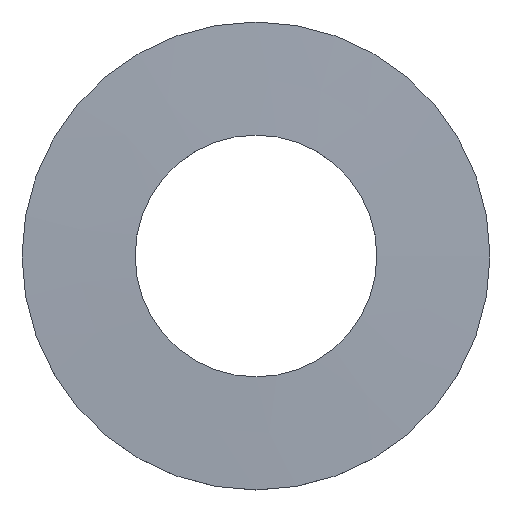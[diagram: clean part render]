
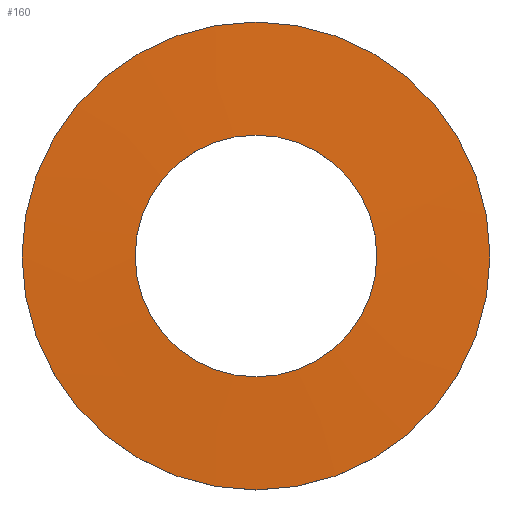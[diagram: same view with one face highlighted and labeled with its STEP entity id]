
A CAD part, top view. The second image highlights one B-rep face of the part: STEP entity #160.
In plain terms, the highlighted conical face has half-angle 88.272 degrees and reference radius 6 mm.
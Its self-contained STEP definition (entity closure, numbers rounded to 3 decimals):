
#66 = CYLINDRICAL_SURFACE('',#67,6.);
#67 = AXIS2_PLACEMENT_3D('',#68,#69,#70);
#68 = CARTESIAN_POINT('',(0.,0.,-8.95));
#69 = DIRECTION('',(0.,0.,1.));
#70 = DIRECTION('',(1.,0.,-0.));
#94 = CYLINDRICAL_SURFACE('',#95,3.1);
#95 = AXIS2_PLACEMENT_3D('',#96,#97,#98);
#96 = CARTESIAN_POINT('',(0.,0.,-8.363));
#97 = DIRECTION('',(-0.,-0.,-1.));
#98 = DIRECTION('',(1.,0.,0.));
#111 = VERTEX_POINT('',#112);
#112 = CARTESIAN_POINT('',(6.,0.,-8.45));
#133 = EDGE_CURVE('',#111,#111,#134,.T.);
#134 = SURFACE_CURVE('',#135,(#140,#147),.PCURVE_S1.);
#135 = CIRCLE('',#136,6.);
#136 = AXIS2_PLACEMENT_3D('',#137,#138,#139);
#137 = CARTESIAN_POINT('',(0.,0.,-8.45));
#138 = DIRECTION('',(0.,0.,1.));
#139 = DIRECTION('',(1.,0.,-0.));
#140 = PCURVE('',#66,#141);
#141 = DEFINITIONAL_REPRESENTATION('',(#142),#146);
#142 = LINE('',#143,#144);
#143 = CARTESIAN_POINT('',(0.,0.5));
#144 = VECTOR('',#145,1.);
#145 = DIRECTION('',(1.,0.));
#146 = ( GEOMETRIC_REPRESENTATION_CONTEXT(2) 
PARAMETRIC_REPRESENTATION_CONTEXT() REPRESENTATION_CONTEXT('2D SPACE',''
  ) );
#147 = PCURVE('',#148,#153);
#148 = CONICAL_SURFACE('',#149,6.,1.541);
#149 = AXIS2_PLACEMENT_3D('',#150,#151,#152);
#150 = CARTESIAN_POINT('',(0.,0.,-8.45));
#151 = DIRECTION('',(-0.,-0.,-1.));
#152 = DIRECTION('',(1.,0.,-0.));
#153 = DEFINITIONAL_REPRESENTATION('',(#154),#158);
#154 = LINE('',#155,#156);
#155 = CARTESIAN_POINT('',(6.283,0.));
#156 = VECTOR('',#157,1.);
#157 = DIRECTION('',(-1.,0.));
#158 = ( GEOMETRIC_REPRESENTATION_CONTEXT(2) 
PARAMETRIC_REPRESENTATION_CONTEXT() REPRESENTATION_CONTEXT('2D SPACE',''
  ) );
#160 = ADVANCED_FACE('',(#161),#148,.T.);
#161 = FACE_BOUND('',#162,.T.);
#162 = EDGE_LOOP('',(#163,#164,#187,#209));
#163 = ORIENTED_EDGE('',*,*,#133,.T.);
#164 = ORIENTED_EDGE('',*,*,#165,.T.);
#165 = EDGE_CURVE('',#111,#166,#168,.T.);
#166 = VERTEX_POINT('',#167);
#167 = CARTESIAN_POINT('',(3.1,0.,-8.363));
#168 = SEAM_CURVE('',#169,(#173,#180),.PCURVE_S1.);
#169 = LINE('',#170,#171);
#170 = CARTESIAN_POINT('',(6.,0.,-8.45));
#171 = VECTOR('',#172,1.);
#172 = DIRECTION('',(-1.,0.,0.03));
#173 = PCURVE('',#148,#174);
#174 = DEFINITIONAL_REPRESENTATION('',(#175),#179);
#175 = LINE('',#176,#177);
#176 = CARTESIAN_POINT('',(0.,0.));
#177 = VECTOR('',#178,1.);
#178 = DIRECTION('',(-0.,-1.));
#179 = ( GEOMETRIC_REPRESENTATION_CONTEXT(2) 
PARAMETRIC_REPRESENTATION_CONTEXT() REPRESENTATION_CONTEXT('2D SPACE',''
  ) );
#180 = PCURVE('',#148,#181);
#181 = DEFINITIONAL_REPRESENTATION('',(#182),#186);
#182 = LINE('',#183,#184);
#183 = CARTESIAN_POINT('',(6.283,0.));
#184 = VECTOR('',#185,1.);
#185 = DIRECTION('',(-0.,-1.));
#186 = ( GEOMETRIC_REPRESENTATION_CONTEXT(2) 
PARAMETRIC_REPRESENTATION_CONTEXT() REPRESENTATION_CONTEXT('2D SPACE',''
  ) );
#187 = ORIENTED_EDGE('',*,*,#188,.F.);
#188 = EDGE_CURVE('',#166,#166,#189,.T.);
#189 = SURFACE_CURVE('',#190,(#195,#202),.PCURVE_S1.);
#190 = CIRCLE('',#191,3.1);
#191 = AXIS2_PLACEMENT_3D('',#192,#193,#194);
#192 = CARTESIAN_POINT('',(0.,0.,-8.363));
#193 = DIRECTION('',(0.,0.,1.));
#194 = DIRECTION('',(1.,0.,-0.));
#195 = PCURVE('',#148,#196);
#196 = DEFINITIONAL_REPRESENTATION('',(#197),#201);
#197 = LINE('',#198,#199);
#198 = CARTESIAN_POINT('',(6.283,-0.087));
#199 = VECTOR('',#200,1.);
#200 = DIRECTION('',(-1.,0.));
#201 = ( GEOMETRIC_REPRESENTATION_CONTEXT(2) 
PARAMETRIC_REPRESENTATION_CONTEXT() REPRESENTATION_CONTEXT('2D SPACE',''
  ) );
#202 = PCURVE('',#94,#203);
#203 = DEFINITIONAL_REPRESENTATION('',(#204),#208);
#204 = LINE('',#205,#206);
#205 = CARTESIAN_POINT('',(6.283,0.));
#206 = VECTOR('',#207,1.);
#207 = DIRECTION('',(-1.,0.));
#208 = ( GEOMETRIC_REPRESENTATION_CONTEXT(2) 
PARAMETRIC_REPRESENTATION_CONTEXT() REPRESENTATION_CONTEXT('2D SPACE',''
  ) );
#209 = ORIENTED_EDGE('',*,*,#165,.F.);
